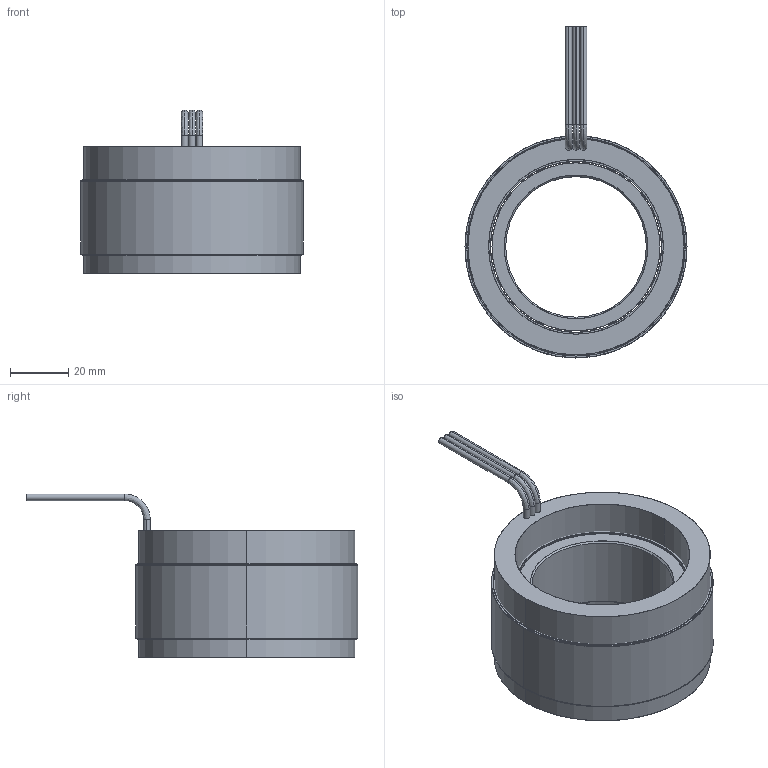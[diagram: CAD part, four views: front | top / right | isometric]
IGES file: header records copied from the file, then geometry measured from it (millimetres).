
Start section: SolidWorks IGES file using analytic representation for surfaces
Global section: file name: \\fs01.aveox.local\user documents\eng\My Documents\6100392-XX UAV STANDARD STATOR AND ROTOR SET 3.0 OD 27S24P\6100392-02.IGS; native system: SolidWorks 2016; preprocessor: SolidWorks 2016; author: eng; date: 201214.185945; units: inch
Bounding box: 76.2 x 113.84 x 56.26 mm (x, y, z)
Surface area: 61336.4 mm2 (no closed solid volume)
Topology: 0 solids, 0 shells, 67 faces, 2196 edges, 2196 vertices
Faces by surface type: revolution 44, bspline 23
